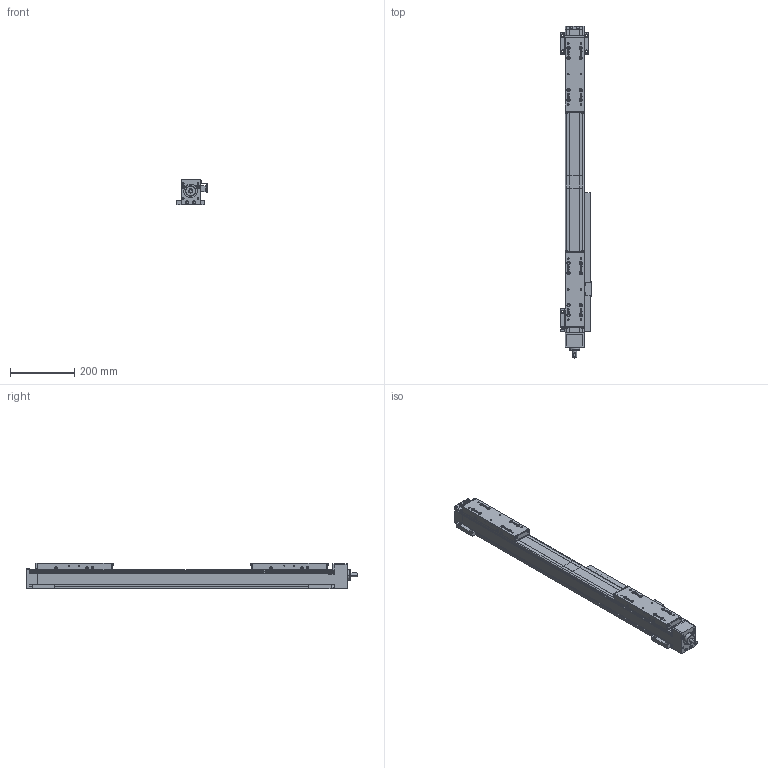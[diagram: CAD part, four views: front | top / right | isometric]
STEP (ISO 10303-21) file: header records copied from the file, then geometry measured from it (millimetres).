
FILE_DESCRIPTION(('Creo Elements/Direct Modeling STEP Export'),'2;1');
FILE_NAME('B060-SGV-RL-230-EN.stp','2020-02-28T 9:37:12',(''),(''),'Creo Elements/Direct Modeling STEP processor for AP214 (Solid Model)','Creo Elements/Direct Modeling 20.1C 13-Oct-2019 (C) Parametric Technology GmbH','');
FILE_SCHEMA(('AUTOMOTIVE_DESIGN { 1 0 10303 214 1 1 1 1 }'));
Length unit declared in the file: millimetre
Products named in the file (26): Endschalterprofil; Endschalter_induktiv; Endschalter_induktiv.2; Endschalter_induktiv.1; Induktive_Endschalter_mit_EN-Profil; Schaltfahne_10407; Linsenschraube_M4x8_EN_ISO_7380_1_10.9_vz_10243.01; Schaltfahne_10407_kpl; Induktive-Endschalter; Beta060-ZSS-Schlitten-230mm; Abstreiferbuerste-Blau_14646.02; Schraube_M_4x10_ISO_7380_10.9_vz_10248; Abstreifer_kpl; Beta060-ZSS-Schlitten-230mm_kpl; BL5_14489; Befestigungsleistenpaar; Befestigungsleistenpaar.1; Befestigungsleisten; Beta060-SSS-Grundkoerper-Teil1; Beta060-SSS-Grundkoerper-Teil2; NS8_14644.02; Nutensteinpaar; Nutensteine; Beta060-ZSS-Schlitten-230mm.02; Beta060-ZSS-Schlitten-230mm_kpl.02; B060-SGV-RL-230-EN
Assembly tree (34 placements, depth 4):
  B060-SGV-RL-230-EN
    Beta060-ZSS-Schlitten-230mm_kpl.02
      Abstreifer_kpl  x2
        Schraube_M_4x10_ISO_7380_10.9_vz_10248
        Abstreiferbuerste-Blau_14646.02
      Beta060-ZSS-Schlitten-230mm.02
    Nutensteine
      Nutensteinpaar
        NS8_14644.02  x2
    Beta060-SSS-Grundkoerper-Teil2
    Beta060-SSS-Grundkoerper-Teil1
    Befestigungsleisten
      Befestigungsleistenpaar.1
        BL5_14489  x2
      Befestigungsleistenpaar
        BL5_14489  x2
    Beta060-ZSS-Schlitten-230mm_kpl
      Abstreifer_kpl  x2
        Schraube_M_4x10_ISO_7380_10.9_vz_10248
        Abstreiferbuerste-Blau_14646.02
      Beta060-ZSS-Schlitten-230mm
    Induktive-Endschalter
      Schaltfahne_10407_kpl
        Linsenschraube_M4x8_EN_ISO_7380_1_10.9_vz_10243.01  x2
        Schaltfahne_10407
      Induktive_Endschalter_mit_EN-Profil
        Endschalter_induktiv.1
        Endschalter_induktiv.2
        Endschalter_induktiv
        Endschalterprofil
Bounding box: 94.5 x 1034 x 80 mm (x, y, z)
Volume: 4124865.1 mm3; surface area: 539165.6 mm2
Topology: 29 solids, 29 shells, 2335 faces, 5979 edges, 3891 vertices
Faces by surface type: plane 1689, cylinder 444, cone 152, torus 26, sphere 24
Entity records: 44991 total; most frequent: CARTESIAN_POINT 10698, ORIENTED_EDGE 6916, DIRECTION 6231, EDGE_CURVE 3458, VECTOR 2475, LINE 2475, VERTEX_POINT 2266, AXIS2_PLACEMENT_3D 1878
